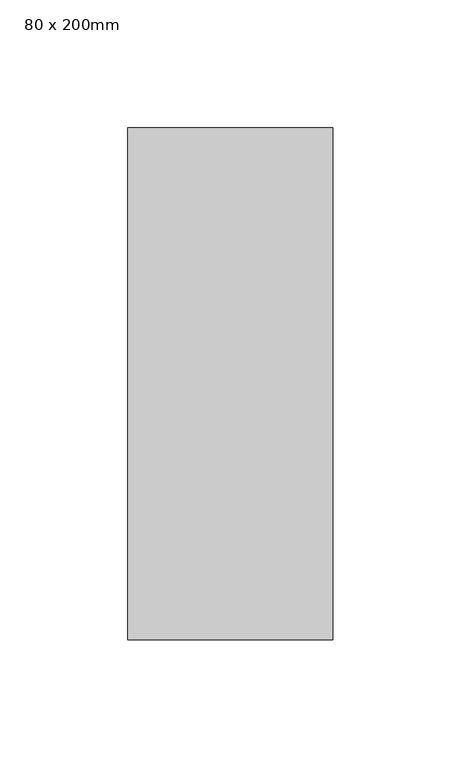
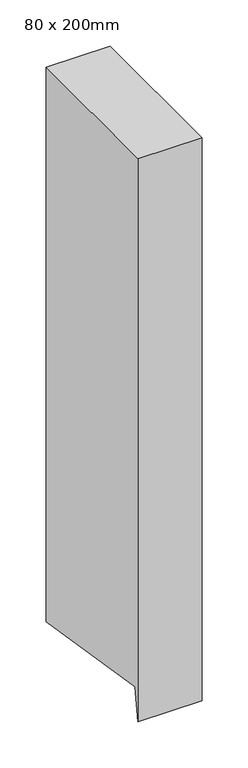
"""IFC4 building model written with IfcOpenShell, lengths in millimetres: member geometry, 矩形竖梃 : 80 x 200mm."""

from ifc_helpers import new_model, si_unit, frame, origin, place, context, project, spatial, polyline, outline, extrude, source, transform, mapped, element, save


def member_80_x_200mm_e494022e(model_context):
    return source(origin(), model_context, "Body", "SweptSolid", [
        extrude(outline(polyline([(-100.0, 0.0), (100.0, 0.0), (100.0, -733.6260916), (-93.1622284, -702.5150787), (-100.0, -744.9694726), (-100.0, 0.0)])), frame((-80.0, 0.0, 0.0), z_axis=(1.0, 0.0, 0.0), x_axis=(0.0, 1.0, 0.0)), (0.0, 0.0, 1.0), 80.0),
    ])


if __name__ == "__main__":
    model = new_model("IFC4")
    model_context = context("Model", 3, world=origin())
    ifc_project = project(units=[si_unit("LENGTHUNIT", "METRE", prefix="MILLI")], contexts=[model_context])
    site = spatial("IfcSite", under=ifc_project)
    building = spatial("IfcBuilding", under=site)
    placement = place(None, origin())
    member_80_x_200mm_shape = member_80_x_200mm_e494022e(model_context)
    element("IfcMember", 1, ObjectType="矩形竖梃 : 80 x 200mm", at=placement, inside=building, context=model_context, shape_type="MappedRepresentation", body=[
        mapped(member_80_x_200mm_shape, transform((0.0, 0.0, 0.0), x_axis=(1.0, 0.0, 0.0), y_axis=(0.0, 1.0, 0.0), z_axis=(0.0, 0.0, 1.0))),
    ])
    save(model, "model.ifc")
